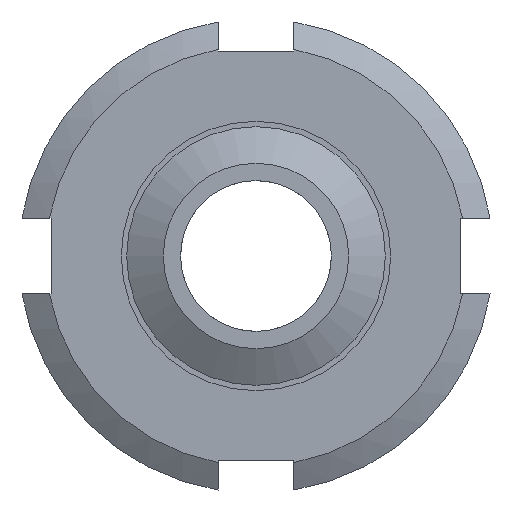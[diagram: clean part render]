
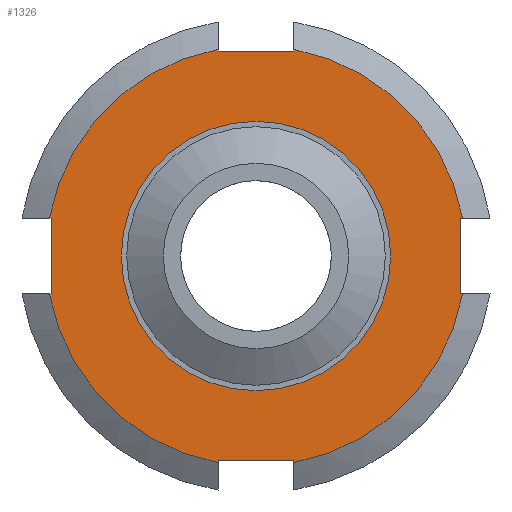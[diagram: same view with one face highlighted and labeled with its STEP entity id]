
A CAD part, front view. The second image highlights one B-rep face of the part: STEP entity #1326.
In plain terms, the highlighted planar face has unit normal (0, -1, 0) as drawn and (1, 0, 0) by its records, which use the part's own axes.
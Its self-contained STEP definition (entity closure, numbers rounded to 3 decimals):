
#86=LINE('',#2318,#144);
#90=LINE('',#2333,#148);
#93=LINE('',#2347,#151);
#96=LINE('',#2355,#154);
#100=LINE('',#2370,#158);
#103=LINE('',#2384,#161);
#106=LINE('',#2392,#164);
#110=LINE('',#2407,#168);
#113=LINE('',#2421,#171);
#118=LINE('',#2474,#176);
#120=LINE('',#2479,#178);
#123=LINE('',#2487,#181);
#144=VECTOR('',#1924,10.);
#148=VECTOR('',#1930,10.);
#151=VECTOR('',#1935,10.);
#154=VECTOR('',#1940,10.);
#158=VECTOR('',#1946,10.);
#161=VECTOR('',#1951,10.);
#164=VECTOR('',#1956,10.);
#168=VECTOR('',#1962,10.);
#171=VECTOR('',#1967,10.);
#176=VECTOR('',#2028,10.);
#178=VECTOR('',#2032,10.);
#181=VECTOR('',#2037,10.);
#211=FACE_BOUND('',#375,.T.);
#235=PLANE('',#1622);
#298=FACE_OUTER_BOUND('',#374,.T.);
#374=EDGE_LOOP('',(#1173,#1174,#1175,#1176,#1177,#1178,#1179,#1180,#1181,
#1182,#1183,#1184,#1185,#1186,#1187,#1188));
#375=EDGE_LOOP('',(#1189,#1190));
#483=CIRCLE('',#1604,19.501);
#485=CIRCLE('',#1607,19.501);
#487=CIRCLE('',#1610,19.501);
#490=CIRCLE('',#1620,19.501);
#491=CIRCLE('',#1623,12.5);
#492=CIRCLE('',#1624,12.5);
#581=VERTEX_POINT('',#2315);
#582=VERTEX_POINT('',#2317);
#586=VERTEX_POINT('',#2331);
#590=VERTEX_POINT('',#2343);
#593=VERTEX_POINT('',#2352);
#594=VERTEX_POINT('',#2354);
#598=VERTEX_POINT('',#2368);
#602=VERTEX_POINT('',#2380);
#605=VERTEX_POINT('',#2389);
#606=VERTEX_POINT('',#2391);
#610=VERTEX_POINT('',#2405);
#614=VERTEX_POINT('',#2417);
#623=VERTEX_POINT('',#2455);
#625=VERTEX_POINT('',#2473);
#626=VERTEX_POINT('',#2477);
#627=VERTEX_POINT('',#2478);
#629=VERTEX_POINT('',#2493);
#630=VERTEX_POINT('',#2494);
#746=EDGE_CURVE('',#582,#581,#86,.T.);
#752=EDGE_CURVE('',#581,#586,#90,.T.);
#757=EDGE_CURVE('',#586,#590,#93,.T.);
#760=EDGE_CURVE('',#594,#593,#96,.T.);
#766=EDGE_CURVE('',#593,#598,#100,.T.);
#771=EDGE_CURVE('',#598,#602,#103,.T.);
#774=EDGE_CURVE('',#606,#605,#106,.T.);
#780=EDGE_CURVE('',#605,#610,#110,.T.);
#785=EDGE_CURVE('',#610,#614,#113,.T.);
#801=EDGE_CURVE('',#623,#606,#483,.T.);
#804=EDGE_CURVE('',#614,#594,#485,.T.);
#806=EDGE_CURVE('',#602,#582,#487,.T.);
#809=EDGE_CURVE('',#625,#623,#118,.T.);
#811=EDGE_CURVE('',#626,#627,#120,.T.);
#815=EDGE_CURVE('',#627,#625,#123,.T.);
#817=EDGE_CURVE('',#590,#626,#490,.T.);
#818=EDGE_CURVE('',#629,#630,#491,.T.);
#819=EDGE_CURVE('',#630,#629,#492,.T.);
#1173=ORIENTED_EDGE('',*,*,#757,.T.);
#1174=ORIENTED_EDGE('',*,*,#817,.T.);
#1175=ORIENTED_EDGE('',*,*,#811,.T.);
#1176=ORIENTED_EDGE('',*,*,#815,.T.);
#1177=ORIENTED_EDGE('',*,*,#809,.T.);
#1178=ORIENTED_EDGE('',*,*,#801,.T.);
#1179=ORIENTED_EDGE('',*,*,#774,.T.);
#1180=ORIENTED_EDGE('',*,*,#780,.T.);
#1181=ORIENTED_EDGE('',*,*,#785,.T.);
#1182=ORIENTED_EDGE('',*,*,#804,.T.);
#1183=ORIENTED_EDGE('',*,*,#760,.T.);
#1184=ORIENTED_EDGE('',*,*,#766,.T.);
#1185=ORIENTED_EDGE('',*,*,#771,.T.);
#1186=ORIENTED_EDGE('',*,*,#806,.T.);
#1187=ORIENTED_EDGE('',*,*,#746,.T.);
#1188=ORIENTED_EDGE('',*,*,#752,.T.);
#1189=ORIENTED_EDGE('',*,*,#818,.F.);
#1190=ORIENTED_EDGE('',*,*,#819,.F.);
#1326=ADVANCED_FACE('',(#298,#211),#235,.T.);
#1604=AXIS2_PLACEMENT_3D('',#2456,#2003,#2004);
#1607=AXIS2_PLACEMENT_3D('',#2463,#2009,#2010);
#1610=AXIS2_PLACEMENT_3D('',#2466,#2015,#2016);
#1620=AXIS2_PLACEMENT_3D('',#2490,#2042,#2043);
#1622=AXIS2_PLACEMENT_3D('',#2492,#2046,#2047);
#1623=AXIS2_PLACEMENT_3D('',#2495,#2048,#2049);
#1624=AXIS2_PLACEMENT_3D('',#2496,#2050,#2051);
#1924=DIRECTION('',(0.,0.,1.));
#1930=DIRECTION('',(0.,1.,0.));
#1935=DIRECTION('',(0.,0.,-1.));
#1940=DIRECTION('',(0.,1.,0.));
#1946=DIRECTION('',(0.,0.,-1.));
#1951=DIRECTION('',(0.,-1.,0.));
#1956=DIRECTION('',(0.,0.,-1.));
#1962=DIRECTION('',(0.,-1.,0.));
#1967=DIRECTION('',(0.,0.,1.));
#2003=DIRECTION('center_axis',(1.,0.,0.));
#2004=DIRECTION('ref_axis',(0.,0.,-1.));
#2009=DIRECTION('center_axis',(1.,0.,0.));
#2010=DIRECTION('ref_axis',(0.,0.,-1.));
#2015=DIRECTION('center_axis',(1.,0.,0.));
#2016=DIRECTION('ref_axis',(0.,0.,-1.));
#2028=DIRECTION('',(0.,1.,0.));
#2032=DIRECTION('',(0.,-1.,0.));
#2037=DIRECTION('',(0.,0.,1.));
#2042=DIRECTION('center_axis',(1.,0.,0.));
#2043=DIRECTION('ref_axis',(0.,0.,-1.));
#2046=DIRECTION('center_axis',(1.,0.,0.));
#2047=DIRECTION('ref_axis',(0.,0.,-1.));
#2048=DIRECTION('center_axis',(1.,0.,0.));
#2049=DIRECTION('ref_axis',(0.,0.,-1.));
#2050=DIRECTION('center_axis',(1.,0.,0.));
#2051=DIRECTION('ref_axis',(0.,0.,-1.));
#2315=CARTESIAN_POINT('',(18.,-3.5,-19.));
#2317=CARTESIAN_POINT('',(18.,-3.5,-19.184));
#2318=CARTESIAN_POINT('',(18.,-3.5,-11.));
#2331=CARTESIAN_POINT('',(18.,3.5,-19.));
#2333=CARTESIAN_POINT('',(18.,6.25,-19.));
#2343=CARTESIAN_POINT('',(18.,3.5,-19.184));
#2347=CARTESIAN_POINT('',(18.,3.5,-11.));
#2352=CARTESIAN_POINT('',(18.,-19.,3.5));
#2354=CARTESIAN_POINT('',(18.,-19.184,3.5));
#2355=CARTESIAN_POINT('',(18.,-4.75,3.5));
#2368=CARTESIAN_POINT('',(18.,-19.,-3.5));
#2370=CARTESIAN_POINT('',(18.,-19.,0.));
#2380=CARTESIAN_POINT('',(18.,-19.184,-3.5));
#2384=CARTESIAN_POINT('',(18.,-4.75,-3.5));
#2389=CARTESIAN_POINT('',(18.,3.5,19.));
#2391=CARTESIAN_POINT('',(18.,3.5,19.184));
#2392=CARTESIAN_POINT('',(18.,3.5,11.));
#2405=CARTESIAN_POINT('',(18.,-3.5,19.));
#2407=CARTESIAN_POINT('',(18.,6.25,19.));
#2417=CARTESIAN_POINT('',(18.,-3.5,19.184));
#2421=CARTESIAN_POINT('',(18.,-3.5,11.));
#2455=CARTESIAN_POINT('',(18.,19.184,3.5));
#2456=CARTESIAN_POINT('Origin',(18.,0.,0.));
#2463=CARTESIAN_POINT('Origin',(18.,0.,0.));
#2466=CARTESIAN_POINT('Origin',(18.,0.,0.));
#2473=CARTESIAN_POINT('',(18.,19.,3.5));
#2474=CARTESIAN_POINT('',(18.,17.25,3.5));
#2477=CARTESIAN_POINT('',(18.,19.184,-3.5));
#2478=CARTESIAN_POINT('',(18.,19.,-3.5));
#2479=CARTESIAN_POINT('',(18.,17.25,-3.5));
#2487=CARTESIAN_POINT('',(18.,19.,0.));
#2490=CARTESIAN_POINT('Origin',(18.,0.,0.));
#2492=CARTESIAN_POINT('Origin',(18.,12.5,0.));
#2493=CARTESIAN_POINT('',(18.,12.5,0.));
#2494=CARTESIAN_POINT('',(18.,-12.5,0.));
#2495=CARTESIAN_POINT('Origin',(18.,0.,0.));
#2496=CARTESIAN_POINT('Origin',(18.,0.,0.));
